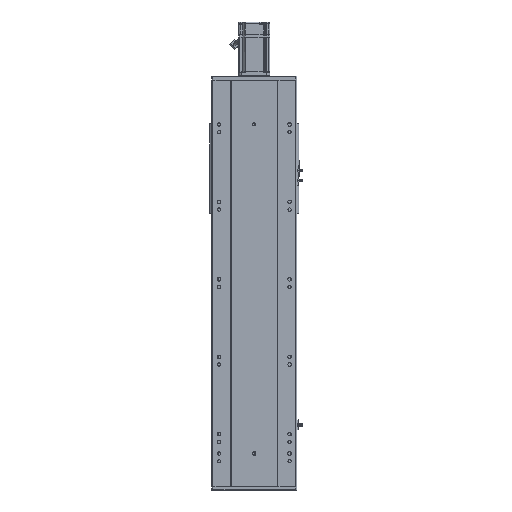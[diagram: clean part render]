
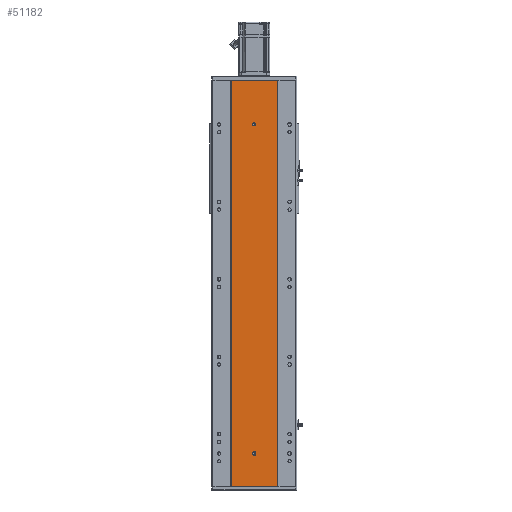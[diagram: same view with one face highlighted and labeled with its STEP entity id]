
A CAD part, front view. The second image highlights one B-rep face of the part: STEP entity #51182.
In plain terms, the highlighted planar face has unit normal (0, -1, 0).
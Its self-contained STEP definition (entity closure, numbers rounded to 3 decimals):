
#503 = DIRECTION ( 'NONE',  ( 0., 0., -1. ) ) ;
#800 = AXIS2_PLACEMENT_3D ( 'NONE', #13287, #35501, #19483 ) ;
#1281 = ORIENTED_EDGE ( 'NONE', *, *, #68478, .F. ) ;
#2036 = VECTOR ( 'NONE', #10100, 1000. ) ;
#2486 = CARTESIAN_POINT ( 'NONE',  ( 0., 0., 932. ) ) ;
#2493 = CIRCLE ( 'NONE', #18536, 4. ) ;
#5405 = VERTEX_POINT ( 'NONE', #26899 ) ;
#6618 = DIRECTION ( 'NONE',  ( 0., 0., -1. ) ) ;
#7223 = CARTESIAN_POINT ( 'NONE',  ( 4., 0., 84.5 ) ) ;
#7229 = VECTOR ( 'NONE', #46751, 1000. ) ;
#8614 = VERTEX_POINT ( 'NONE', #47391 ) ;
#9811 = ORIENTED_EDGE ( 'NONE', *, *, #50853, .F. ) ;
#10100 = DIRECTION ( 'NONE',  ( 1., 0., 0. ) ) ;
#12393 = LINE ( 'NONE', #27153, #2036 ) ;
#13287 = CARTESIAN_POINT ( 'NONE',  ( -60., 0., 1050. ) ) ;
#13987 = FACE_OUTER_BOUND ( 'NONE', #49076, .T. ) ;
#14062 = VERTEX_POINT ( 'NONE', #33262 ) ;
#14369 = DIRECTION ( 'NONE',  ( 1., 0., 0. ) ) ;
#14468 = CARTESIAN_POINT ( 'NONE',  ( 0., 0., 936. ) ) ;
#15381 = EDGE_CURVE ( 'NONE', #32266, #14062, #20129, .T. ) ;
#16115 = CARTESIAN_POINT ( 'NONE',  ( 0., 0., 87.5 ) ) ;
#16427 = CARTESIAN_POINT ( 'NONE',  ( 0., 0., 80.5 ) ) ;
#18536 = AXIS2_PLACEMENT_3D ( 'NONE', #20310, #59050, #32016 ) ;
#18560 = PLANE ( 'NONE',  #800 ) ;
#19086 = ORIENTED_EDGE ( 'NONE', *, *, #60118, .F. ) ;
#19483 = DIRECTION ( 'NONE',  ( 0., 0., 1. ) ) ;
#19996 = VECTOR ( 'NONE', #68495, 1000. ) ;
#20129 = LINE ( 'NONE', #40991, #7229 ) ;
#20310 = CARTESIAN_POINT ( 'NONE',  ( 0., 0., 84.5 ) ) ;
#22215 = CARTESIAN_POINT ( 'NONE',  ( 0., 0., 84.5 ) ) ;
#22404 = EDGE_LOOP ( 'NONE', ( #9811, #26868, #43249, #65404, #38538 ) ) ;
#23399 = ORIENTED_EDGE ( 'NONE', *, *, #25456, .F. ) ;
#23701 = LINE ( 'NONE', #41761, #19996 ) ;
#23848 = CIRCLE ( 'NONE', #51133, 4. ) ;
#24182 = ORIENTED_EDGE ( 'NONE', *, *, #36130, .F. ) ;
#25456 = EDGE_CURVE ( 'NONE', #5405, #53405, #23701, .T. ) ;
#26868 = ORIENTED_EDGE ( 'NONE', *, *, #37930, .F. ) ;
#26899 = CARTESIAN_POINT ( 'NONE',  ( 60., 0., 1050. ) ) ;
#26987 = DIRECTION ( 'NONE',  ( 0., 0., 1. ) ) ;
#27153 = CARTESIAN_POINT ( 'NONE',  ( -60., 0., 1050. ) ) ;
#29395 = FACE_BOUND ( 'NONE', #43006, .T. ) ;
#30288 = DIRECTION ( 'NONE',  ( 0., -1., 0. ) ) ;
#32016 = DIRECTION ( 'NONE',  ( 0., 0., -1. ) ) ;
#32266 = VERTEX_POINT ( 'NONE', #44406 ) ;
#33262 = CARTESIAN_POINT ( 'NONE',  ( -60., 0., 0. ) ) ;
#33549 = VECTOR ( 'NONE', #41244, 1000. ) ;
#35447 = CARTESIAN_POINT ( 'NONE',  ( 4., 0., 87.5 ) ) ;
#35501 = DIRECTION ( 'NONE',  ( 0., 1., 0. ) ) ;
#36130 = EDGE_CURVE ( 'NONE', #8614, #39566, #67767, .T. ) ;
#36226 = EDGE_CURVE ( 'NONE', #69055, #48199, #64346, .T. ) ;
#36604 = ORIENTED_EDGE ( 'NONE', *, *, #53292, .T. ) ;
#37905 = FACE_BOUND ( 'NONE', #22404, .T. ) ;
#37930 = EDGE_CURVE ( 'NONE', #66809, #52707, #2493, .T. ) ;
#38538 = ORIENTED_EDGE ( 'NONE', *, *, #38607, .F. ) ;
#38607 = EDGE_CURVE ( 'NONE', #65858, #69055, #23848, .T. ) ;
#39566 = VERTEX_POINT ( 'NONE', #2486 ) ;
#40991 = CARTESIAN_POINT ( 'NONE',  ( -60., 0., 1050. ) ) ;
#41244 = DIRECTION ( 'NONE',  ( 0., 0., -1. ) ) ;
#41630 = CARTESIAN_POINT ( 'NONE',  ( 60., 0., 0. ) ) ;
#41761 = CARTESIAN_POINT ( 'NONE',  ( 60., 0., 1050. ) ) ;
#43006 = EDGE_LOOP ( 'NONE', ( #1281, #24182 ) ) ;
#43249 = ORIENTED_EDGE ( 'NONE', *, *, #70017, .F. ) ;
#44406 = CARTESIAN_POINT ( 'NONE',  ( -60., 0., 1050. ) ) ;
#45140 = CARTESIAN_POINT ( 'NONE',  ( -4., 0., 84.5 ) ) ;
#46527 = LINE ( 'NONE', #48727, #60143 ) ;
#46751 = DIRECTION ( 'NONE',  ( 0., 0., -1. ) ) ;
#47142 = AXIS2_PLACEMENT_3D ( 'NONE', #65916, #49492, #54529 ) ;
#47391 = CARTESIAN_POINT ( 'NONE',  ( 0., 0., 940. ) ) ;
#48199 = VERTEX_POINT ( 'NONE', #45140 ) ;
#48640 = AXIS2_PLACEMENT_3D ( 'NONE', #22215, #66409, #6618 ) ;
#48727 = CARTESIAN_POINT ( 'NONE',  ( 4., 0., 84.5 ) ) ;
#49076 = EDGE_LOOP ( 'NONE', ( #36604, #23399, #19086, #59665 ) ) ;
#49091 = AXIS2_PLACEMENT_3D ( 'NONE', #14468, #30288, #52752 ) ;
#49492 = DIRECTION ( 'NONE',  ( 0., -1., 0. ) ) ;
#50853 = EDGE_CURVE ( 'NONE', #52707, #65858, #46527, .T. ) ;
#51133 = AXIS2_PLACEMENT_3D ( 'NONE', #16115, #59875, #503 ) ;
#51182 = ADVANCED_FACE ( 'NONE', ( #29395, #37905, #13987 ), #18560, .F. ) ;
#52707 = VERTEX_POINT ( 'NONE', #7223 ) ;
#52752 = DIRECTION ( 'NONE',  ( 0., 0., -1. ) ) ;
#53292 = EDGE_CURVE ( 'NONE', #14062, #53405, #64182, .T. ) ;
#53405 = VERTEX_POINT ( 'NONE', #41630 ) ;
#54529 = DIRECTION ( 'NONE',  ( 0., 0., -1. ) ) ;
#54608 = CIRCLE ( 'NONE', #48640, 4. ) ;
#54682 = CARTESIAN_POINT ( 'NONE',  ( -4., 0., 87.5 ) ) ;
#55663 = VECTOR ( 'NONE', #14369, 1000. ) ;
#58710 = CARTESIAN_POINT ( 'NONE',  ( -4., 0., 84.5 ) ) ;
#59050 = DIRECTION ( 'NONE',  ( 0., -1., 0. ) ) ;
#59665 = ORIENTED_EDGE ( 'NONE', *, *, #15381, .T. ) ;
#59875 = DIRECTION ( 'NONE',  ( 0., -1., 0. ) ) ;
#60118 = EDGE_CURVE ( 'NONE', #32266, #5405, #12393, .T. ) ;
#60143 = VECTOR ( 'NONE', #26987, 1000. ) ;
#64182 = LINE ( 'NONE', #67179, #55663 ) ;
#64346 = LINE ( 'NONE', #58710, #33549 ) ;
#64904 = CIRCLE ( 'NONE', #47142, 4. ) ;
#65404 = ORIENTED_EDGE ( 'NONE', *, *, #36226, .F. ) ;
#65858 = VERTEX_POINT ( 'NONE', #35447 ) ;
#65916 = CARTESIAN_POINT ( 'NONE',  ( 0., 0., 936. ) ) ;
#66409 = DIRECTION ( 'NONE',  ( 0., -1., 0. ) ) ;
#66809 = VERTEX_POINT ( 'NONE', #16427 ) ;
#67179 = CARTESIAN_POINT ( 'NONE',  ( -60., 0., 0. ) ) ;
#67767 = CIRCLE ( 'NONE', #49091, 4. ) ;
#68478 = EDGE_CURVE ( 'NONE', #39566, #8614, #64904, .T. ) ;
#68495 = DIRECTION ( 'NONE',  ( 0., 0., -1. ) ) ;
#69055 = VERTEX_POINT ( 'NONE', #54682 ) ;
#70017 = EDGE_CURVE ( 'NONE', #48199, #66809, #54608, .T. ) ;
